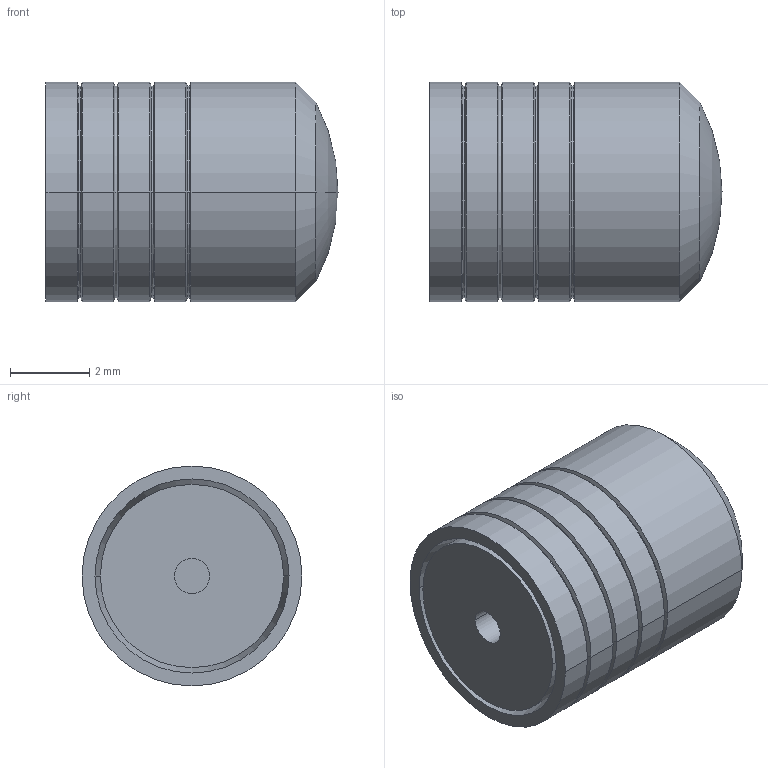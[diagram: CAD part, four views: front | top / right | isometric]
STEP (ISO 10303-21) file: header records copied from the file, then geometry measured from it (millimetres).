
FILE_DESCRIPTION(('CoCreate Modeling STEP Export'),'2;1');
FILE_NAME('PLHA2181241A.stp','2012-01-10T13:59:48',(''),(''),'CoCreate Modeling STEP processor for AP214 (Solid Model)','CoCreate Modeling 17.0 01-Apr-2010 (C) Parametric Technology GmbH','');
FILE_SCHEMA(('AUTOMOTIVE_DESIGN { 1 0 10303 214 1 1 1 1 }'));
Length unit declared in the file: millimetre
Products named in the file (1): PLHA2181241A
Bounding box: 7.37 x 5.54 x 5.54 mm (x, y, z)
Volume: 162.6 mm3; surface area: 198.8 mm2
Topology: 1 solids, 1 shells, 47 faces, 99 edges, 54 vertices
Faces by surface type: cylinder 22, cone 20, plane 3, sphere 2
Entity records: 1056 total; most frequent: ORIENTED_EDGE 194, CARTESIAN_POINT 147, DIRECTION 144, EDGE_CURVE 97, VERTEX_POINT 54, AXIS2_PLACEMENT_3D 51, EDGE_LOOP 49, FACE_OUTER_BOUND 47
